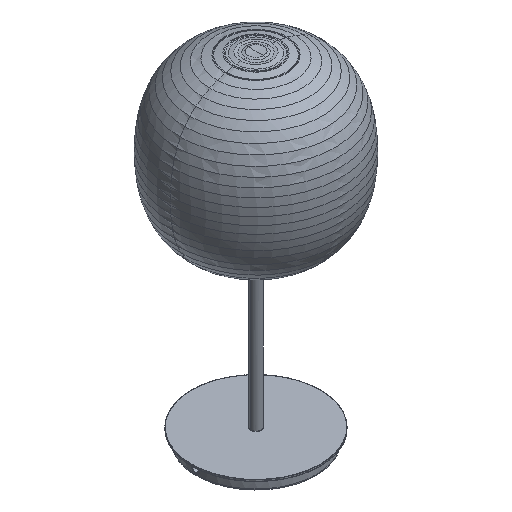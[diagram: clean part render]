
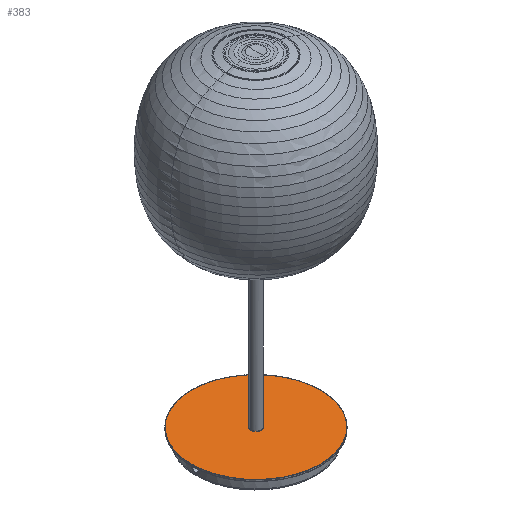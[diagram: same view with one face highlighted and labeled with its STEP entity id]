
A CAD part, isometric view. The second image highlights one B-rep face of the part: STEP entity #383.
In plain terms, the highlighted planar face has unit normal (0, 0, 1) as drawn and (0, 1, 0) by its records, which use the part's own axes.
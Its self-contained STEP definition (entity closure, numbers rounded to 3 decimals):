
#163=FACE_BOUND('',#1570,.T.);
#383=ADVANCED_FACE('',(#972,#163),#8219,.T.);
#972=FACE_OUTER_BOUND('',#1569,.T.);
#1569=EDGE_LOOP('',(#2808,#2809,#2810,#2811));
#1570=EDGE_LOOP('',(#2812,#2813));
#2808=ORIENTED_EDGE('',*,*,#5106,.T.);
#2809=ORIENTED_EDGE('',*,*,#5112,.T.);
#2810=ORIENTED_EDGE('',*,*,#5110,.T.);
#2811=ORIENTED_EDGE('',*,*,#5105,.T.);
#2812=ORIENTED_EDGE('',*,*,#5099,.T.);
#2813=ORIENTED_EDGE('',*,*,#5103,.T.);
#5099=EDGE_CURVE('',#7634,#7635,#6745,.T.);
#5103=EDGE_CURVE('',#7635,#7634,#6747,.T.);
#5105=EDGE_CURVE('',#7638,#7636,#6749,.T.);
#5106=EDGE_CURVE('',#7636,#7637,#6750,.T.);
#5110=EDGE_CURVE('',#7639,#7638,#6754,.T.);
#5112=EDGE_CURVE('',#7637,#7639,#6756,.T.);
#6745=(
BOUNDED_CURVE()
B_SPLINE_CURVE(2,(#22052,#22053,#22054,#22055,#22056),.UNSPECIFIED.,.F.,
 .F.)
B_SPLINE_CURVE_WITH_KNOTS((3,2,3),(0.,9.425,18.85),
 .UNSPECIFIED.)
CURVE()
GEOMETRIC_REPRESENTATION_ITEM()
RATIONAL_B_SPLINE_CURVE((1.,0.707,1.,0.707,1.))
REPRESENTATION_ITEM('')
);
#6747=(
BOUNDED_CURVE()
B_SPLINE_CURVE(2,(#22066,#22067,#22068,#22069,#22070),.UNSPECIFIED.,.F.,
 .F.)
B_SPLINE_CURVE_WITH_KNOTS((3,2,3),(0.,9.425,18.85),
 .UNSPECIFIED.)
CURVE()
GEOMETRIC_REPRESENTATION_ITEM()
RATIONAL_B_SPLINE_CURVE((1.,0.707,1.,0.707,1.))
REPRESENTATION_ITEM('')
);
#6749=(
BOUNDED_CURVE()
B_SPLINE_CURVE(2,(#22076,#22077,#22078),.UNSPECIFIED.,.F.,.F.)
B_SPLINE_CURVE_WITH_KNOTS((3,3),(0.,117.417),.UNSPECIFIED.)
CURVE()
GEOMETRIC_REPRESENTATION_ITEM()
RATIONAL_B_SPLINE_CURVE((1.,0.707,1.))
REPRESENTATION_ITEM('')
);
#6750=(
BOUNDED_CURVE()
B_SPLINE_CURVE(2,(#22079,#22080,#22081),.UNSPECIFIED.,.F.,.F.)
B_SPLINE_CURVE_WITH_KNOTS((3,3),(0.,117.417),.UNSPECIFIED.)
CURVE()
GEOMETRIC_REPRESENTATION_ITEM()
RATIONAL_B_SPLINE_CURVE((1.,0.707,1.))
REPRESENTATION_ITEM('')
);
#6754=(
BOUNDED_CURVE()
B_SPLINE_CURVE(2,(#22093,#22094,#22095),.UNSPECIFIED.,.F.,.F.)
B_SPLINE_CURVE_WITH_KNOTS((3,3),(0.,117.417),.UNSPECIFIED.)
CURVE()
GEOMETRIC_REPRESENTATION_ITEM()
RATIONAL_B_SPLINE_CURVE((1.,0.707,1.))
REPRESENTATION_ITEM('')
);
#6756=(
BOUNDED_CURVE()
B_SPLINE_CURVE(2,(#22101,#22102,#22103),.UNSPECIFIED.,.F.,.F.)
B_SPLINE_CURVE_WITH_KNOTS((3,3),(0.,117.417),.UNSPECIFIED.)
CURVE()
GEOMETRIC_REPRESENTATION_ITEM()
RATIONAL_B_SPLINE_CURVE((1.,0.707,1.))
REPRESENTATION_ITEM('')
);
#7634=VERTEX_POINT('',#21785);
#7635=VERTEX_POINT('',#21786);
#7636=VERTEX_POINT('',#21787);
#7637=VERTEX_POINT('',#21788);
#7638=VERTEX_POINT('',#21789);
#7639=VERTEX_POINT('',#21790);
#8219=PLANE('',#9092);
#9092=AXIS2_PLACEMENT_3D('',#19411,#9202,$);
#9202=DIRECTION('',(0.,1.,0.));
#19411=CARTESIAN_POINT('',(1253.311,1081.284,-89.955));
#21785=CARTESIAN_POINT('',(1349.266,1081.284,0.));
#21786=CARTESIAN_POINT('',(1337.266,1081.284,0.));
#21787=CARTESIAN_POINT('',(1268.516,1081.284,0.));
#21788=CARTESIAN_POINT('',(1343.266,1081.284,74.75));
#21789=CARTESIAN_POINT('',(1343.266,1081.284,-74.75));
#21790=CARTESIAN_POINT('',(1418.016,1081.284,0.));
#22052=CARTESIAN_POINT('',(1349.266,1081.284,0.));
#22053=CARTESIAN_POINT('',(1349.266,1081.284,6.));
#22054=CARTESIAN_POINT('',(1343.266,1081.284,6.));
#22055=CARTESIAN_POINT('',(1337.266,1081.284,6.));
#22056=CARTESIAN_POINT('',(1337.266,1081.284,0.));
#22066=CARTESIAN_POINT('',(1337.266,1081.284,0.));
#22067=CARTESIAN_POINT('',(1337.266,1081.284,-6.));
#22068=CARTESIAN_POINT('',(1343.266,1081.284,-6.));
#22069=CARTESIAN_POINT('',(1349.266,1081.284,-6.));
#22070=CARTESIAN_POINT('',(1349.266,1081.284,0.));
#22076=CARTESIAN_POINT('',(1343.266,1081.284,-74.75));
#22077=CARTESIAN_POINT('',(1268.516,1081.284,-74.75));
#22078=CARTESIAN_POINT('',(1268.516,1081.284,0.));
#22079=CARTESIAN_POINT('',(1268.516,1081.284,0.));
#22080=CARTESIAN_POINT('',(1268.516,1081.284,74.75));
#22081=CARTESIAN_POINT('',(1343.266,1081.284,74.75));
#22093=CARTESIAN_POINT('',(1418.016,1081.284,0.));
#22094=CARTESIAN_POINT('',(1418.016,1081.284,-74.75));
#22095=CARTESIAN_POINT('',(1343.266,1081.284,-74.75));
#22101=CARTESIAN_POINT('',(1343.266,1081.284,74.75));
#22102=CARTESIAN_POINT('',(1418.016,1081.284,74.75));
#22103=CARTESIAN_POINT('',(1418.016,1081.284,0.));
